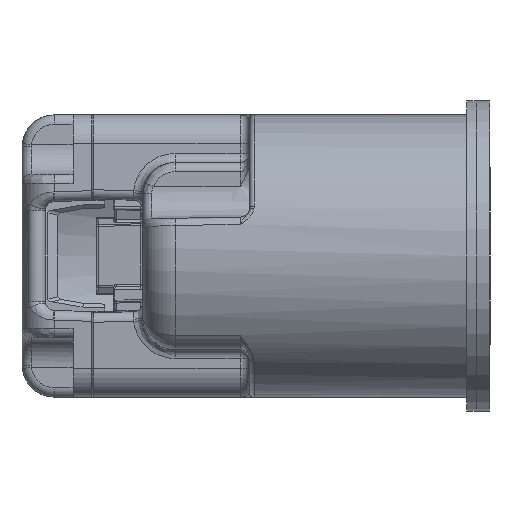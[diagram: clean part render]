
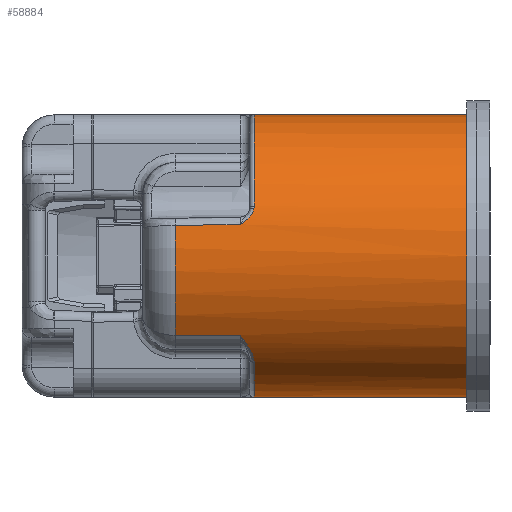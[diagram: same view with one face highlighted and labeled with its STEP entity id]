
A CAD part, left-side view. The second image highlights one B-rep face of the part: STEP entity #58884.
In plain terms, the highlighted cylindrical face has radius 15.2 mm (diameter 30.4 mm), a partial arc.
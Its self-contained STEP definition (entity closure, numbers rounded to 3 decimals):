
#17132=CARTESIAN_POINT('',(-19.8,-6.3,0.));
#17133=DIRECTION('',(0.,1.,0.));
#17134=DIRECTION('',(0.,0.,-1.));
#17135=AXIS2_PLACEMENT_3D('',#17132,#17133,#17134);
#17140=CARTESIAN_POINT('',(-19.8,16.6,0.));
#17141=DIRECTION('',(0.,1.,0.));
#17142=DIRECTION('',(0.,0.,-1.));
#17143=AXIS2_PLACEMENT_3D('',#17140,#17141,#17142);
#17148=CARTESIAN_POINT('',(-29.795,16.6,-11.452));
#17149=CARTESIAN_POINT('',(-29.796,16.6,-11.451));
#17150=CARTESIAN_POINT('',(-29.799,16.6,
-11.448));
#17151=CARTESIAN_POINT('',(-29.803,16.6,
-11.445));
#17152=CARTESIAN_POINT('',(-29.806,16.6,
-11.442));
#17153=CARTESIAN_POINT('',(-29.807,16.6,
-11.441));
#17158=CARTESIAN_POINT('',(-29.807,16.6,
-11.441));
#17159=CARTESIAN_POINT('',(-29.944,16.601,
-11.322));
#17160=CARTESIAN_POINT('',(-30.214,16.628,
-11.077));
#17161=CARTESIAN_POINT('',(-30.635,16.751,
-10.666));
#17162=CARTESIAN_POINT('',(-30.996,16.924,
-10.284));
#17163=CARTESIAN_POINT('',(-31.299,17.115,
-9.943));
#17164=CARTESIAN_POINT('',(-31.551,17.305,
-9.644));
#17165=CARTESIAN_POINT('',(-31.763,17.487,
-9.379));
#17166=CARTESIAN_POINT('',(-31.944,17.656,
-9.142));
#17167=CARTESIAN_POINT('',(-32.103,17.814,
-8.928));
#17168=CARTESIAN_POINT('',(-32.244,17.961,
-8.729));
#17169=CARTESIAN_POINT('',(-32.331,18.055,
-8.603));
#17170=CARTESIAN_POINT('',(-32.373,18.1,-8.542));
#17175=DIRECTION('',(0.,1.,0.));
#17176=VECTOR('',#17175,7.);
#17177=CARTESIAN_POINT('',(-32.373,18.1,-8.542));
#17178=LINE('',#17177,#17176);
#17182=CARTESIAN_POINT('',(-19.8,25.1,0.));
#17183=DIRECTION('',(0.,1.,0.));
#17184=DIRECTION('',(-0.827,0.,-0.562));
#17185=AXIS2_PLACEMENT_3D('',#17182,#17183,#17184);
#17190=CARTESIAN_POINT('',(-34.612,18.1,
3.413));
#17191=CARTESIAN_POINT('',(-34.615,18.807,
3.4));
#17192=CARTESIAN_POINT('',(-34.621,20.269,
3.373));
#17193=CARTESIAN_POINT('',(-34.631,22.575,
3.33));
#17194=CARTESIAN_POINT('',(-34.638,24.24,
3.299));
#17195=CARTESIAN_POINT('',(-34.641,25.1,
3.283));
#17200=CARTESIAN_POINT('',(-34.108,16.617,
5.131));
#17201=CARTESIAN_POINT('',(-34.145,16.632,
5.028));
#17202=CARTESIAN_POINT('',(-34.213,16.681,
4.832));
#17203=CARTESIAN_POINT('',(-34.301,16.803,
4.558));
#17204=CARTESIAN_POINT('',(-34.372,16.952,
4.326));
#17205=CARTESIAN_POINT('',(-34.425,17.104,
4.144));
#17206=CARTESIAN_POINT('',(-34.465,17.251,
3.999));
#17207=CARTESIAN_POINT('',(-34.496,17.389,
3.881));
#17208=CARTESIAN_POINT('',(-34.522,17.519,
3.782));
#17209=CARTESIAN_POINT('',(-34.543,17.639,
3.698));
#17210=CARTESIAN_POINT('',(-34.561,17.749,
3.626));
#17211=CARTESIAN_POINT('',(-34.577,17.85,
3.563));
#17212=CARTESIAN_POINT('',(-34.59,17.941,
3.508));
#17213=CARTESIAN_POINT('',(-34.601,18.025,
3.458));
#17214=CARTESIAN_POINT('',(-34.608,18.076,
3.428));
#17215=CARTESIAN_POINT('',(-34.612,18.1,
3.413));
#17220=CARTESIAN_POINT('',(-34.021,16.6,5.366));
#17221=CARTESIAN_POINT('',(-34.031,16.6,
5.339));
#17222=CARTESIAN_POINT('',(-34.051,16.601,
5.287));
#17223=CARTESIAN_POINT('',(-34.08,16.607,
5.209));
#17224=CARTESIAN_POINT('',(-34.098,16.613,
5.157));
#17225=CARTESIAN_POINT('',(-34.108,16.617,
5.131));
#17230=CARTESIAN_POINT('',(-19.8,16.6,0.));
#17231=DIRECTION('',(0.,-1.,0.));
#17232=DIRECTION('',(0.,0.,1.));
#17233=AXIS2_PLACEMENT_3D('',#17230,#17231,#17232);
#17238=DIRECTION('',(0.,-1.,0.));
#17239=VECTOR('',#17238,22.9);
#17240=CARTESIAN_POINT('',(-19.8,16.6,15.2));
#17241=LINE('',#17240,#17239);
#20833=DIRECTION('',(0.,-1.,0.));
#20834=VECTOR('',#20833,22.9);
#20835=CARTESIAN_POINT('',(-19.8,16.6,-15.2));
#20836=LINE('',#20835,#20834);
#23400=CARTESIAN_POINT('',(-34.612,18.1,
3.413));
#23434=CARTESIAN_POINT('',(-34.641,25.1,
3.283));
#37553=CARTESIAN_POINT('',(-32.373,25.1,-8.542));
#37555=VERTEX_POINT('',#37553);
#37635=VERTEX_POINT('',#17158);
#37636=VERTEX_POINT('',#17170);
#37639=VERTEX_POINT('',#17148);
#37642=CARTESIAN_POINT('',(-19.8,16.6,-15.2));
#37643=VERTEX_POINT('',#37642);
#37666=CARTESIAN_POINT('',(-19.8,16.6,15.2));
#37668=VERTEX_POINT('',#37666);
#37673=CARTESIAN_POINT('',(-34.021,16.6,5.366));
#37674=VERTEX_POINT('',#37673);
#37760=VERTEX_POINT('',#23434);
#37790=VERTEX_POINT('',#23400);
#37791=VERTEX_POINT('',#17200);
#41562=CARTESIAN_POINT('',(-19.8,-6.3,15.2));
#41564=VERTEX_POINT('',#41562);
#41566=CARTESIAN_POINT('',(-19.8,-6.3,-15.2));
#41567=VERTEX_POINT('',#41566);
#58854=CARTESIAN_POINT('',(-19.8,28.6,0.));
#58855=DIRECTION('',(0.,1.,0.));
#58856=DIRECTION('',(1.,0.,0.));
#58857=AXIS2_PLACEMENT_3D('',#58854,#58855,#58856);
#58858=CYLINDRICAL_SURFACE('',#58857,15.2);
#58860=ORIENTED_EDGE('',*,*,#58859,.F.);
#58862=ORIENTED_EDGE('',*,*,#58861,.F.);
#58864=ORIENTED_EDGE('',*,*,#58863,.T.);
#58866=ORIENTED_EDGE('',*,*,#58865,.T.);
#58868=ORIENTED_EDGE('',*,*,#58867,.T.);
#58870=ORIENTED_EDGE('',*,*,#58869,.T.);
#58872=ORIENTED_EDGE('',*,*,#58871,.T.);
#58874=ORIENTED_EDGE('',*,*,#58873,.F.);
#58876=ORIENTED_EDGE('',*,*,#58875,.F.);
#58878=ORIENTED_EDGE('',*,*,#58877,.F.);
#58880=ORIENTED_EDGE('',*,*,#58879,.F.);
#58881=ORIENTED_EDGE('',*,*,#47089,.T.);
#58882=EDGE_LOOP('',(#58860,#58862,#58864,#58866,#58868,#58870,#58872,#58874,
#58876,#58878,#58880,#58881));
#58883=FACE_OUTER_BOUND('',#58882,.F.);
#17136=CIRCLE('',#17135,15.2);
#17144=CIRCLE('',#17143,15.2);
#17154=B_SPLINE_CURVE_WITH_KNOTS('',3,(#17148,#17149,#17150,#17151,#17152,
#17153),.UNSPECIFIED.,.F.,.F.,(4,1,1,4),(0.,0.333,
0.667,1.),.UNSPECIFIED.);
#17171=B_SPLINE_CURVE_WITH_KNOTS('',3,(#17158,#17159,#17160,#17161,#17162,
#17163,#17164,#17165,#17166,#17167,#17168,#17169,#17170),.UNSPECIFIED.,.F.,.F.,(
4,1,1,1,1,1,1,1,1,1,4),(0.,0.1,0.2,0.3,0.4,0.5,0.6,0.7,0.8,
0.9,1.),.UNSPECIFIED.);
#17186=CIRCLE('',#17185,15.2);
#17196=B_SPLINE_CURVE_WITH_KNOTS('',3,(#17190,#17191,#17192,#17193,#17194,
#17195),.UNSPECIFIED.,.F.,.F.,(4,1,1,4),(0.,0.333,
0.667,1.),.UNSPECIFIED.);
#17216=B_SPLINE_CURVE_WITH_KNOTS('',3,(#17200,#17201,#17202,#17203,#17204,
#17205,#17206,#17207,#17208,#17209,#17210,#17211,#17212,#17213,#17214,#17215),
.UNSPECIFIED.,.F.,.F.,(4,1,1,1,1,1,1,1,1,1,1,1,1,4),(0.,0.077,
0.154,0.231,0.308,0.385,
0.462,0.538,0.615,0.692,
0.769,0.846,0.923,1.),.UNSPECIFIED.);
#17226=B_SPLINE_CURVE_WITH_KNOTS('',3,(#17220,#17221,#17222,#17223,#17224,
#17225),.UNSPECIFIED.,.F.,.F.,(4,1,1,4),(0.,0.333,
0.667,1.),.UNSPECIFIED.);
#17234=CIRCLE('',#17233,15.2);
#47089=EDGE_CURVE('',#37668,#41564,#17241,.T.);
#58859=EDGE_CURVE('',#41567,#41564,#17136,.T.);
#58861=EDGE_CURVE('',#37643,#41567,#20836,.T.);
#58863=EDGE_CURVE('',#37643,#37639,#17144,.T.);
#58865=EDGE_CURVE('',#37639,#37635,#17154,.T.);
#58867=EDGE_CURVE('',#37635,#37636,#17171,.T.);
#58869=EDGE_CURVE('',#37636,#37555,#17178,.T.);
#58871=EDGE_CURVE('',#37555,#37760,#17186,.T.);
#58873=EDGE_CURVE('',#37790,#37760,#17196,.T.);
#58875=EDGE_CURVE('',#37791,#37790,#17216,.T.);
#58877=EDGE_CURVE('',#37674,#37791,#17226,.T.);
#58879=EDGE_CURVE('',#37668,#37674,#17234,.T.);
#58884=ADVANCED_FACE('',(#58883),#58858,.T.);
